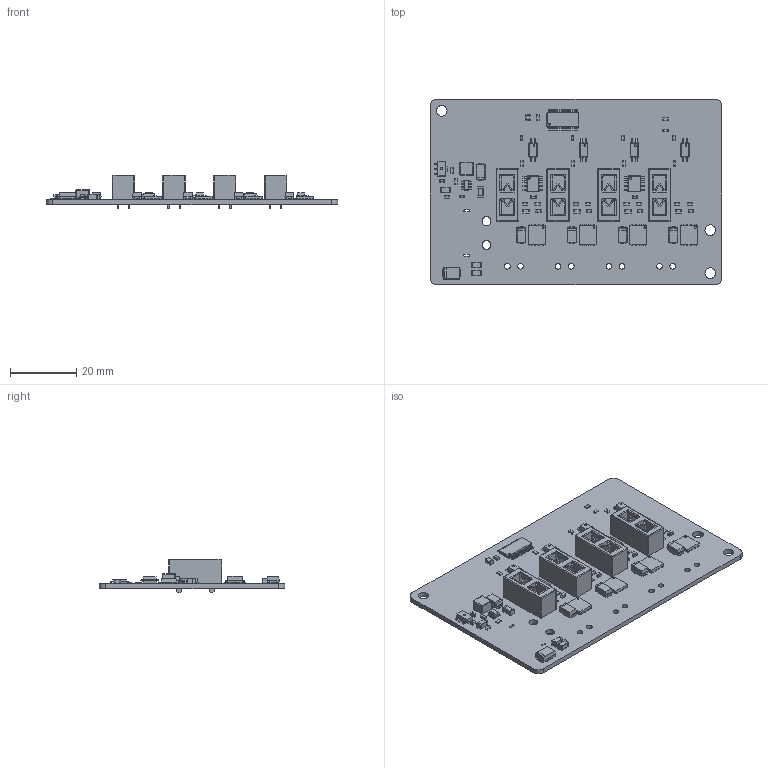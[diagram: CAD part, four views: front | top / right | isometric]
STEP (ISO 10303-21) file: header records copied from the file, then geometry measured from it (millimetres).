
FILE_DESCRIPTION(('KiCad electronic assembly'),'2;1');
FILE_NAME('AP_PWM4.step','2026-10-10T08:09:32',('Pcbnew'),('Kicad'), 'Open CASCADE STEP processor 7.6','KiCad to STEP converter','Unknown' );
FILE_SCHEMA(('AUTOMOTIVE_DESIGN { 1 0 10303 214 1 1 1 1 }'));
Length unit declared in the file: millimetre
Products named in the file (19): AP_PWM4 1; R_0603_1608Metric; TDSON-8-1; D_SMA; LED_0603_1608Metric; C_0805_2012Metric; C_0603_1608Metric; SOP-4_4.4x2.6mm_P1.27mm; R_0805_2012Metric; L_Changjiang_FNR4030S; SOT-89-3; AP_PWM4 1.21.1; C_1206_3216Metric; Fuseholder_Blade_Mini_Keystone_3568; SOT-23-6; SOIC-8_3.9x4.9mm_P1.27mm; D_SMB; TSSOP-28_4.4x9.7mm_P0.65mm; AP_PWM4_PCB
Assembly tree (65 placements, depth 3):
  AP_PWM4 1
    R_0603_1608Metric  x20
    TDSON-8-1  x4
    D_SMA  x5
    LED_0603_1608Metric  x4
    C_0805_2012Metric
    C_0603_1608Metric  x6
    SOP-4_4.4x2.6mm_P1.27mm  x4
    R_0805_2012Metric  x4
    L_Changjiang_FNR4030S
    SOT-89-3
      AP_PWM4 1.21.1
    C_1206_3216Metric  x4
    Fuseholder_Blade_Mini_Keystone_3568  x4
    SOT-23-6
    SOIC-8_3.9x4.9mm_P1.27mm  x2
    D_SMB
    TSSOP-28_4.4x9.7mm_P0.65mm
    AP_PWM4_PCB
Bounding box: 88 x 56 x 10.16 mm (x, y, z)
Volume: 10614 mm3; surface area: 15397.8 mm2
Topology: 68 solids, 68 shells, 3587 faces, 9521 edges, 6110 vertices
Faces by surface type: plane 2356, cylinder 829, bspline 382, sphere 20
Full cylindrical faces by diameter (mm): 0.5 x9, 0.6 x2, 0.7 x1, 1.7 x8, 1.78 x16, 2.7 x2, 3.2 x3
Entity records: 43902 total; most frequent: CARTESIAN_POINT 8434, ORIENTED_EDGE 7502, DIRECTION 6863, EDGE_CURVE 3749, LINE 2861, VECTOR 2861, VERTEX_POINT 2388, AXIS2_PLACEMENT_3D 2001
